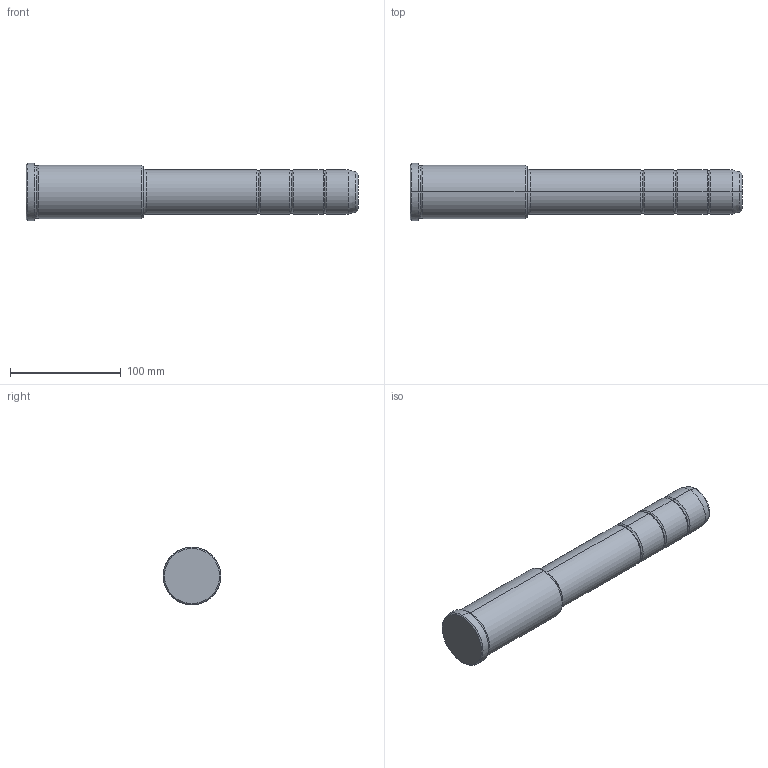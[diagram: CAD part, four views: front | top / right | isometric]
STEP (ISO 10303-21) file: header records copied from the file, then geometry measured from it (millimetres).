
FILE_DESCRIPTION(('CATIA V5 STEP Exchange'),'2;1');
FILE_NAME('C:\Users\Utente\Desktop\IO LAVORO\3D X SITO CF\X SITO\PLASTICA\351\351-40X106X300.stp','2021-10-07T13:41:02+00:00',('none'),('none'),'CATIA Version 5 Release 20 GA (IN-10)','CATIA V5 STEP AP203','none');
FILE_SCHEMA(('CONFIG_CONTROL_DESIGN'));
Length unit declared in the file: millimetre
Products named in the file (1): 351-40X106X300
Bounding box: 300 x 52 x 52 mm (x, y, z)
Volume: 435663.3 mm3; surface area: 44246.7 mm2
Topology: 1 solids, 1 shells, 42 faces, 118 edges, 80 vertices
Faces by surface type: torus 20, cylinder 12, cone 6, plane 4
Entity records: 1472 total; most frequent: CARTESIAN_POINT 353, ORIENTED_EDGE 236, DIRECTION 194, AXIS2_PLACEMENT_3D 135, EDGE_CURVE 118, CIRCLE 92, VERTEX_POINT 80, EDGE_LOOP 44
